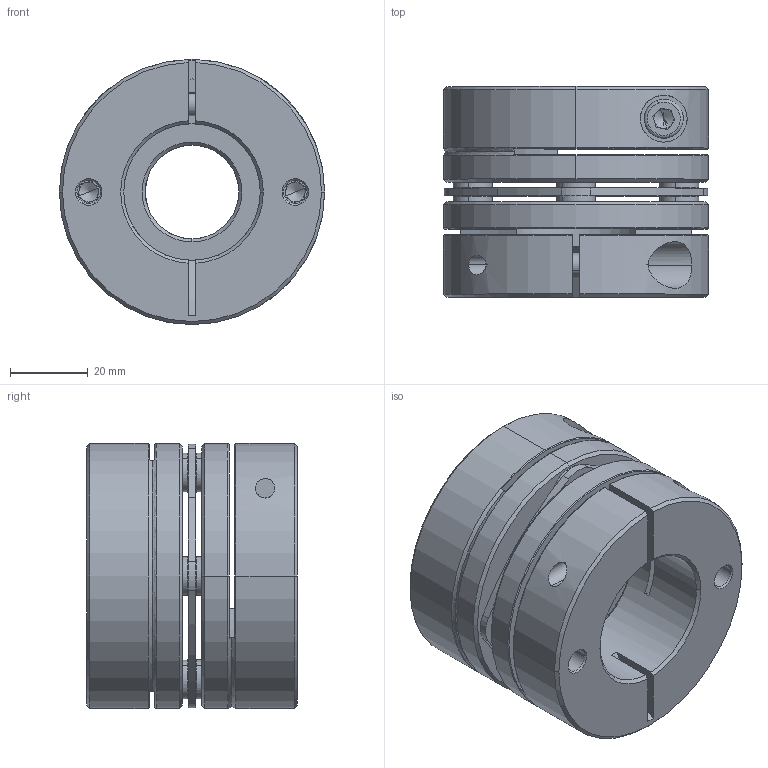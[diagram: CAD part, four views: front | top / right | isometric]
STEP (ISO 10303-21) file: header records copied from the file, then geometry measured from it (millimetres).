
FILE_DESCRIPTION (( 'STEP AP203' ), '1' );
FILE_NAME ('LD1-D68-24-35.STEP', '2021-10-26T08:01:24', ( '' ), ( '' ), 'SwSTEP 2.0', 'SolidWorks 2018', '' );
FILE_SCHEMA (( 'CONFIG_CONTROL_DESIGN' ));
Length unit declared in the file: millimetre
Products named in the file (2): 錨璃101^LD1-D68; LD1-D68-24-35
Assembly tree (1 placements, depth 2):
  LD1-D68-24-35
    錨璃101^LD1-D68
Bounding box: 68 x 54 x 68 mm (x, y, z)
Volume: 133050.2 mm3; surface area: 45057.8 mm2
Topology: 1 solids, 15 shells, 441 faces, 1047 edges, 642 vertices
Faces by surface type: cylinder 161, plane 136, cone 122, torus 22
Entity records: 13321 total; most frequent: CARTESIAN_POINT 2590, DIRECTION 2405, ORIENTED_EDGE 2062, EDGE_CURVE 1031, AXIS2_PLACEMENT_3D 977, VERTEX_POINT 642, CIRCLE 532, EDGE_LOOP 521
